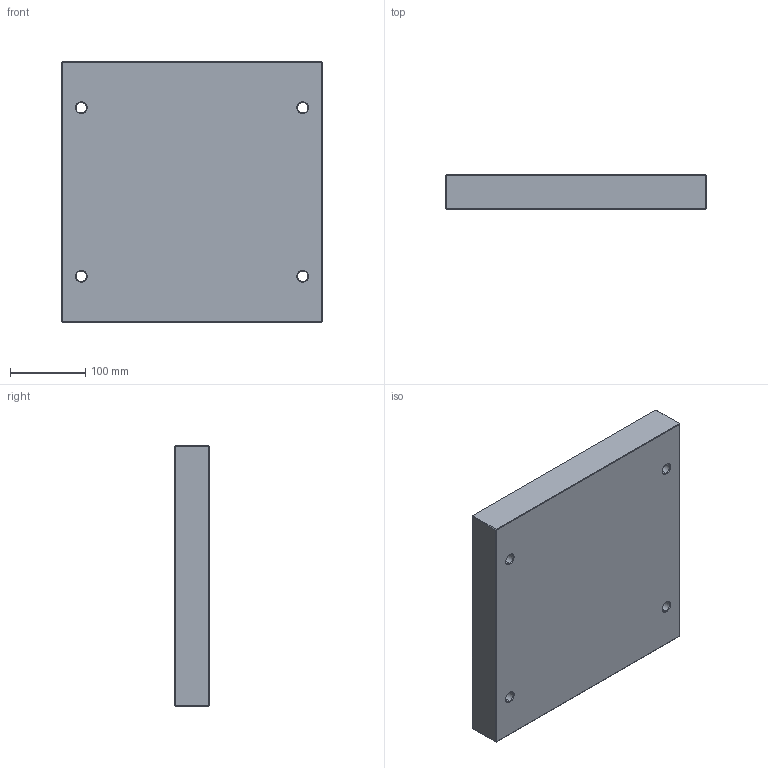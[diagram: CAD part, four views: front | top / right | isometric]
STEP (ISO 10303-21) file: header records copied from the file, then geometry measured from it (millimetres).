
FILE_DESCRIPTION (( 'STEP AP214' ), '1' );
FILE_NAME ('PS-346X346X46.STEP', '2020-05-12T15:36:22', ( 'August' ), ( '' ), 'SwSTEP 2.0', 'SolidWorks 2018', '' );
FILE_SCHEMA (( 'AUTOMOTIVE_DESIGN' ));
Length unit declared in the file: millimetre
Products named in the file (1): PS-346X346X46
Bounding box: 346 x 46 x 346 mm (x, y, z)
Volume: 5467946.3 mm3; surface area: 309040.7 mm2
Topology: 1 solids, 1 shells, 62 faces, 128 edges, 72 vertices
Faces by surface type: plane 30, cone 16, cylinder 16
Entity records: 1650 total; most frequent: DIRECTION 302, CARTESIAN_POINT 263, ORIENTED_EDGE 256, EDGE_CURVE 128, AXIS2_PLACEMENT_3D 111, VECTOR 80, LINE 80, EDGE_LOOP 74
